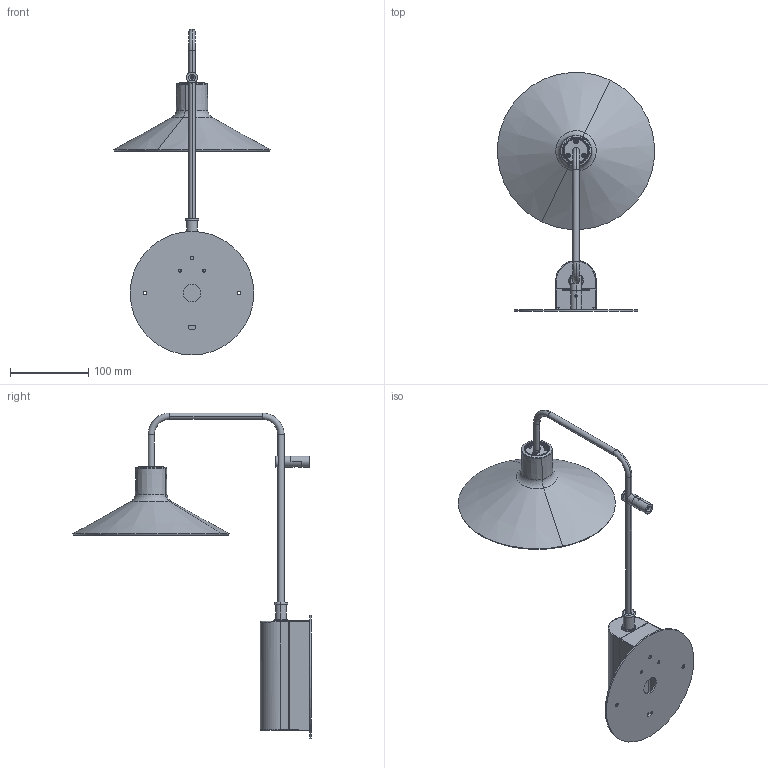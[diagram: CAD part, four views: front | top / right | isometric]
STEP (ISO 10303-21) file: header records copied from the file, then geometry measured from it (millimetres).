
FILE_DESCRIPTION (( 'STEP AP214' ), '1' );
FILE_NAME ('PLATET A 01 OUTDOOR 21101006xxx.STEP', '2021-03-24T09:40:05', ( '' ), ( '' ), 'SwSTEP 2.0', 'SolidWorks 2019', '' );
FILE_SCHEMA (( 'AUTOMOTIVE_DESIGN' ));
Length unit declared in the file: millimetre
Products named in the file (19): 000-211-006; 000-914-175; 000-D7991-312A2; 000-211-008; 000-211-013; 000-211-009; 000-918-038; 000-211-016; 000-211-017; PLATET A 01 OUTDOOR 21101006xxx; 000-211-007; 000-D7991-310 A2; 000-SUB SOPORTE PARED; 000-914-139; 000-211-005; 000-211-012; 000-211-015; 000-211-003
Assembly tree (20 placements, depth 3):
  PLATET A 01 OUTDOOR 21101006xxx
    000-211-003
    000-211-005
    000-211-008
      000-211-008
      000-211-006
      000-211-007
    000-211-009
    000-211-013
    000-D7991-310 A2  x3
    000-211-015
    000-SUB SOPORTE PARED
      000-211-016
      000-211-017
      000-D7991-312A2
    000-914-139
    000-211-012
    000-918-038
    000-914-175
Bounding box: 200.61 x 305.05 x 416.65 mm (x, y, z)
Volume: 254653.3 mm3; surface area: 232681.6 mm2
Topology: 18 solids, 18 shells, 906 faces, 2164 edges, 1287 vertices
Faces by surface type: cylinder 259, cone 227, plane 150, torus 143, bspline 123, sphere 4
Entity records: 65548 total; most frequent: CARTESIAN_POINT 44423, DIRECTION 4178, ORIENTED_EDGE 4144, EDGE_CURVE 2072, AXIS2_PLACEMENT_3D 1731, VERTEX_POINT 1243, CIRCLE 957, EDGE_LOOP 939
